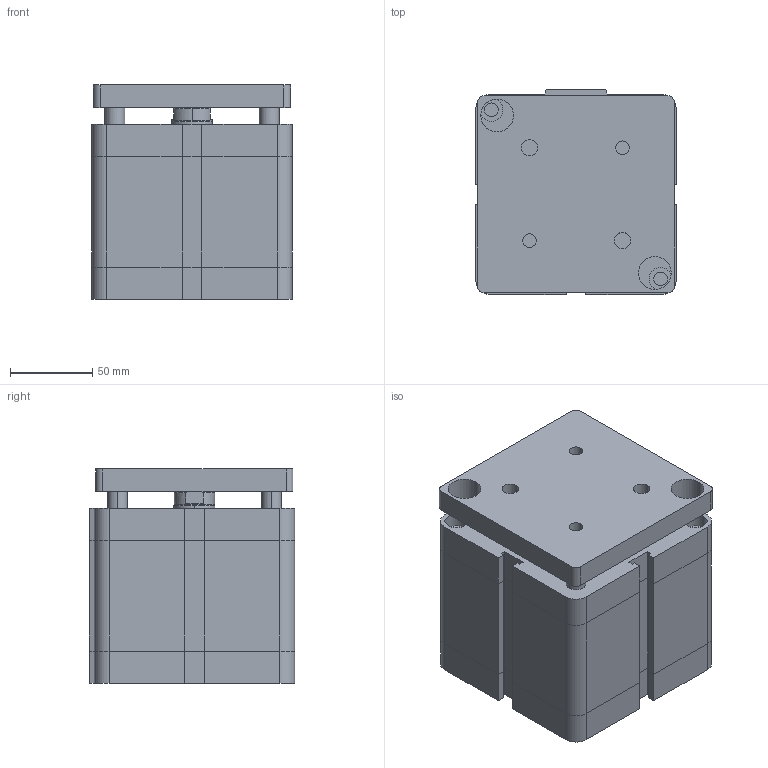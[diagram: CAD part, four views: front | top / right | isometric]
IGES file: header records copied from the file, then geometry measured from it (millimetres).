
Global section: file name: No Iges File Name specified; native system: Autodesk Inventor 2009; preprocessor: AutoDesk Inventor Iges Exporter R2009; author: maffial1; date: 20090420.201423; units: millimetre
Bounding box: 122 x 125 x 130.5 mm (x, y, z)
Volume: 1748147.3 mm3; surface area: 146654.6 mm2
Topology: 2 solids, 2 shells, 212 faces, 486 edges, 298 vertices
Faces by surface type: plane 111, bspline 67, cylinder 26, cone 8
